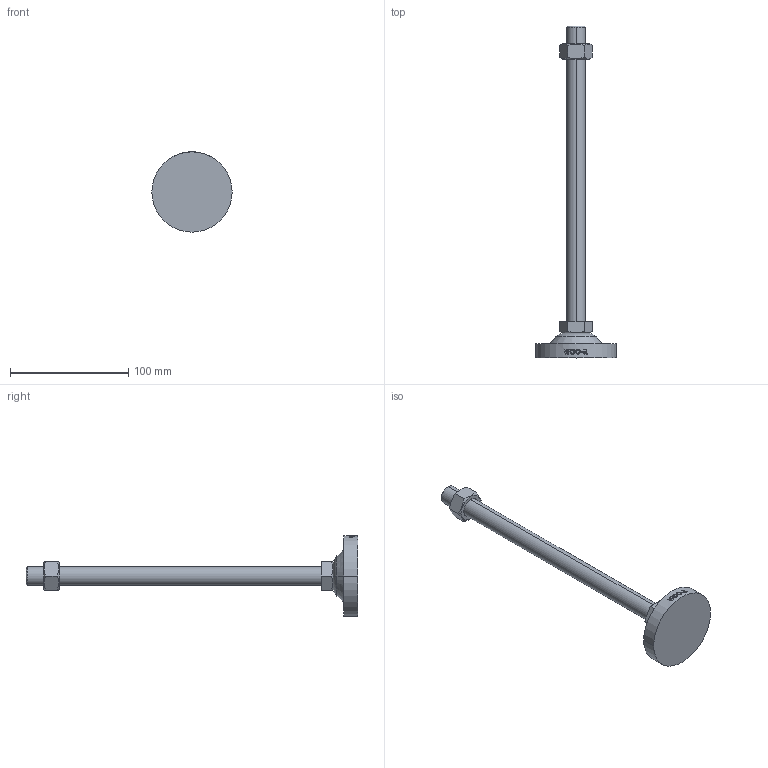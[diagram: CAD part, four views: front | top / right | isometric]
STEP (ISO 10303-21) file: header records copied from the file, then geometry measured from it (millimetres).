
FILE_DESCRIPTION (( 'STEP AP214' ), '1' );
FILE_NAME ('RB68-M16-250.step', '2021-01-18T05:51:03', ( '' ), ( '' ), 'SwSTEP 2.0', 'SolidWorks 2019', '' );
FILE_SCHEMA (( 'AUTOMOTIVE_DESIGN' ));
Length unit declared in the file: millimetre
Products named in the file (2): RB68-M16-250
Bounding box: 68 x 281 x 68 mm (x, y, z)
Volume: 107214.2 mm3; surface area: 28587.9 mm2
Topology: 2 solids, 3 shells, 128 faces, 317 edges, 206 vertices
Faces by surface type: plane 48, cylinder 42, bspline 18, cone 16, torus 4
Entity records: 5349 total; most frequent: CARTESIAN_POINT 2507, ORIENTED_EDGE 634, DIRECTION 479, EDGE_CURVE 317, VERTEX_POINT 206, AXIS2_PLACEMENT_3D 176, EDGE_LOOP 141, ADVANCED_FACE 128
